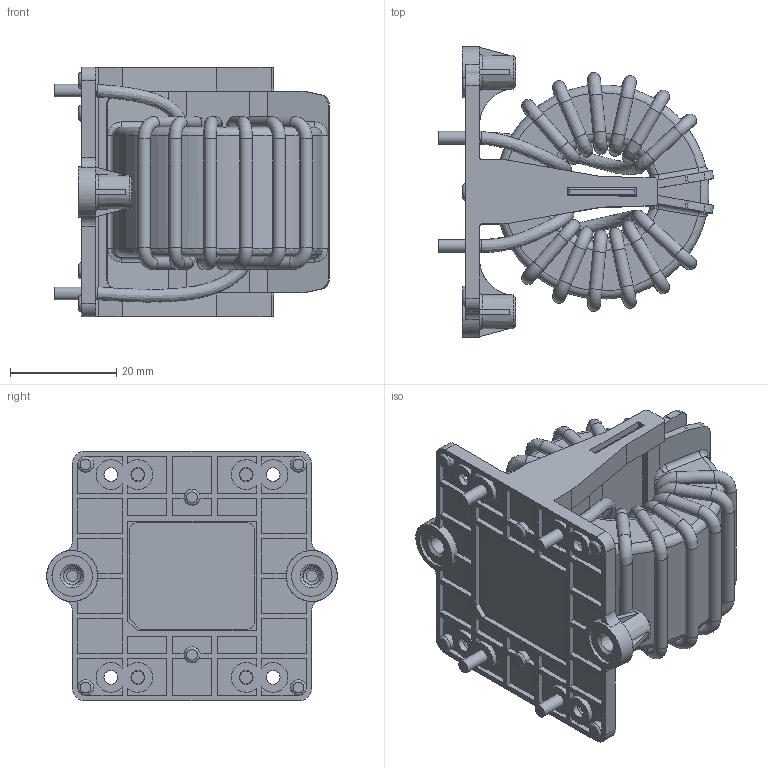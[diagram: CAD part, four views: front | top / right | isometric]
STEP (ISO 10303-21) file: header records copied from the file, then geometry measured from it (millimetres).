
FILE_DESCRIPTION((''),'2;1');
FILE_NAME('K:\Development\Projects\RB\Angel_standard choke series 2011\70_Realization_Revision\702_MechanicalDesign\RB6522-25-0M6.stp','2012-08-23T11:30:33',('Fiona.chen'),(''),'Autodesk Inventor 2010','Autodesk Inventor 2010','');
FILE_SCHEMA(('AUTOMOTIVE_DESIGN { 1 0 10303 214 1 1 1 1 }'));
Length unit declared in the file: millimetre
Products named in the file (1): 零件28
Bounding box: 51.65 x 54.58 x 46.93 mm (x, y, z)
Volume: 38159.5 mm3; surface area: 25026.9 mm2
Topology: 5 solids, 9 shells, 739 faces, 2041 edges, 1248 vertices
Faces by surface type: plane 315, cylinder 154, bspline 130, torus 106, cone 34
Full cylindrical faces by diameter (mm): 2.4 x23, 2.6 x8, 3 x6, 9.6 x2
Entity records: 29424 total; most frequent: CARTESIAN_POINT 10995, ORIENTED_EDGE 3934, DIRECTION 3263, EDGE_CURVE 1971, VERTEX_POINT 1224, AXIS2_PLACEMENT_3D 1142, VECTOR 979, LINE 979
